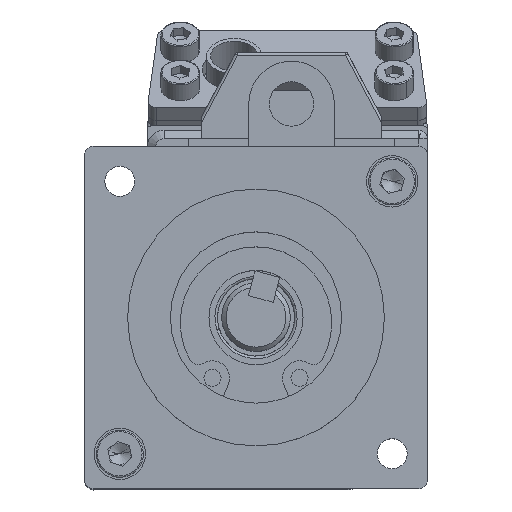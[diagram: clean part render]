
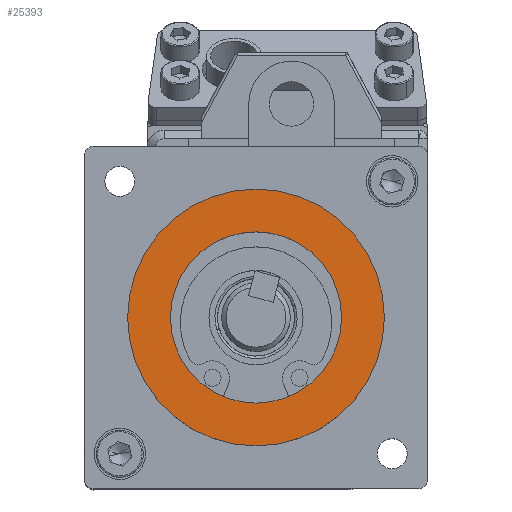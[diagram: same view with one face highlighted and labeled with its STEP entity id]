
A CAD part, top view. The second image highlights one B-rep face of the part: STEP entity #25393.
In plain terms, the highlighted planar face has unit normal (0, 0, 1).
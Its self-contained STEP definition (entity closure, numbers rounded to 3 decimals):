
#687 = VERTEX_POINT ( 'NONE', #11852 ) ;
#1176 = CARTESIAN_POINT ( 'NONE',  ( 68.478, 20., 115.595 ) ) ;
#1712 = DIRECTION ( 'NONE',  ( 0., 0., 1. ) ) ;
#1793 = DIRECTION ( 'NONE',  ( 0., 0., 1. ) ) ;
#1868 = CIRCLE ( 'NONE', #5977, 15. ) ;
#2166 = VERTEX_POINT ( 'NONE', #20717 ) ;
#2485 = ORIENTED_EDGE ( 'NONE', *, *, #12315, .T. ) ;
#3157 = FACE_BOUND ( 'NONE', #27368, .T. ) ;
#3233 = AXIS2_PLACEMENT_3D ( 'NONE', #1176, #18978, #3750 ) ;
#3750 = DIRECTION ( 'NONE',  ( 1., 0., 0. ) ) ;
#4171 = CIRCLE ( 'NONE', #22871, 10. ) ;
#5977 = AXIS2_PLACEMENT_3D ( 'NONE', #17022, #1793, #19585 ) ;
#6145 = EDGE_CURVE ( 'NONE', #8658, #19570, #1868, .T. ) ;
#7477 = PLANE ( 'NONE',  #12541 ) ;
#7581 = DIRECTION ( 'NONE',  ( 0., 0., 1. ) ) ;
#8658 = VERTEX_POINT ( 'NONE', #22610 ) ;
#10906 = ORIENTED_EDGE ( 'NONE', *, *, #21154, .F. ) ;
#11632 = ORIENTED_EDGE ( 'NONE', *, *, #6145, .T. ) ;
#11852 = CARTESIAN_POINT ( 'NONE',  ( 58.478, 20., 115.595 ) ) ;
#12315 = EDGE_CURVE ( 'NONE', #19570, #8658, #22641, .T. ) ;
#12541 = AXIS2_PLACEMENT_3D ( 'NONE', #22857, #7581, #25397 ) ;
#13882 = EDGE_CURVE ( 'NONE', #2166, #687, #14325, .T. ) ;
#14325 = CIRCLE ( 'NONE', #3233, 10. ) ;
#14993 = CARTESIAN_POINT ( 'NONE',  ( 68.478, 20., 115.595 ) ) ;
#15791 = EDGE_LOOP ( 'NONE', ( #2485, #11632 ) ) ;
#16952 = CARTESIAN_POINT ( 'NONE',  ( 68.478, 20., 115.595 ) ) ;
#17022 = CARTESIAN_POINT ( 'NONE',  ( 68.478, 20., 115.595 ) ) ;
#17531 = DIRECTION ( 'NONE',  ( 1., 0., 0. ) ) ;
#18978 = DIRECTION ( 'NONE',  ( 0., 0., 1. ) ) ;
#19517 = DIRECTION ( 'NONE',  ( 1., 0., 0. ) ) ;
#19570 = VERTEX_POINT ( 'NONE', #31976 ) ;
#19582 = AXIS2_PLACEMENT_3D ( 'NONE', #16952, #1712, #19517 ) ;
#19585 = DIRECTION ( 'NONE',  ( 1., 0., 0. ) ) ;
#20717 = CARTESIAN_POINT ( 'NONE',  ( 78.478, 20., 115.595 ) ) ;
#21154 = EDGE_CURVE ( 'NONE', #687, #2166, #4171, .T. ) ;
#22610 = CARTESIAN_POINT ( 'NONE',  ( 83.478, 20., 115.595 ) ) ;
#22641 = CIRCLE ( 'NONE', #19582, 15. ) ;
#22857 = CARTESIAN_POINT ( 'NONE',  ( 68.478, 20., 115.595 ) ) ;
#22871 = AXIS2_PLACEMENT_3D ( 'NONE', #14993, #32821, #17531 ) ;
#25393 = ADVANCED_FACE ( 'NONE', ( #3157, #29434 ), #7477, .T. ) ;
#25397 = DIRECTION ( 'NONE',  ( 1., 0., 0. ) ) ;
#25475 = ORIENTED_EDGE ( 'NONE', *, *, #13882, .F. ) ;
#27368 = EDGE_LOOP ( 'NONE', ( #10906, #25475 ) ) ;
#29434 = FACE_OUTER_BOUND ( 'NONE', #15791, .T. ) ;
#31976 = CARTESIAN_POINT ( 'NONE',  ( 53.478, 20., 115.595 ) ) ;
#32821 = DIRECTION ( 'NONE',  ( 0., 0., 1. ) ) ;
